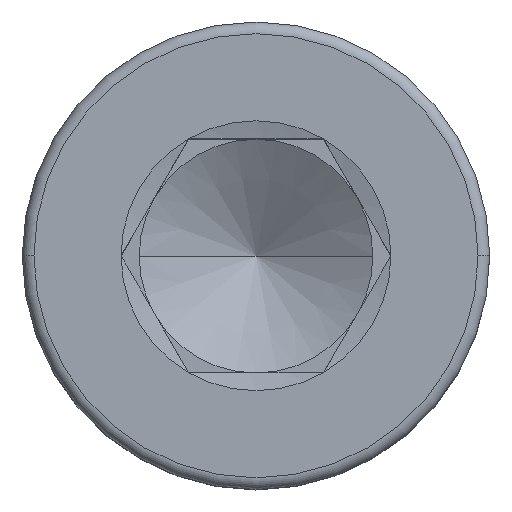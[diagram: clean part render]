
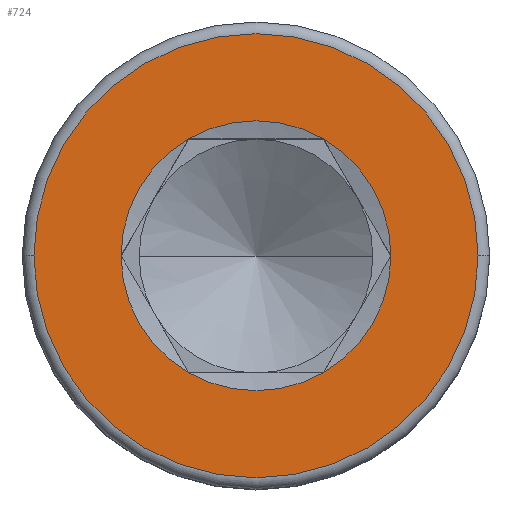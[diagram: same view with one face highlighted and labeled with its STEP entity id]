
A CAD part, top view. The second image highlights one B-rep face of the part: STEP entity #724.
In plain terms, the highlighted planar face has unit normal (0, 0, 1).
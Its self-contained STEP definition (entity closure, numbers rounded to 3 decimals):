
#5 = VERTEX_POINT ( 'NONE', #359 ) ;
#51 = CIRCLE ( 'NONE', #963, 2.309 ) ;
#58 = VERTEX_POINT ( 'NONE', #805 ) ;
#129 = CARTESIAN_POINT ( 'NONE',  ( 0., 0., 5. ) ) ;
#155 = DIRECTION ( 'NONE',  ( 0., 0., 1. ) ) ;
#173 = CARTESIAN_POINT ( 'NONE',  ( 1.155, -2., 5. ) ) ;
#178 = DIRECTION ( 'NONE',  ( 0., 0., 1. ) ) ;
#201 = AXIS2_PLACEMENT_3D ( 'NONE', #1491, #178, #1201 ) ;
#281 = FACE_BOUND ( 'NONE', #1468, .T. ) ;
#325 = CARTESIAN_POINT ( 'NONE',  ( 0., 0., 5. ) ) ;
#331 = DIRECTION ( 'NONE',  ( 1., 0., 0. ) ) ;
#356 = CIRCLE ( 'NONE', #597, 2.309 ) ;
#359 = CARTESIAN_POINT ( 'NONE',  ( 1.155, 2., 5. ) ) ;
#386 = EDGE_CURVE ( 'NONE', #1144, #727, #615, .T. ) ;
#397 = DIRECTION ( 'NONE',  ( 0., 0., 1. ) ) ;
#427 = DIRECTION ( 'NONE',  ( 1., 0., 0. ) ) ;
#438 = CIRCLE ( 'NONE', #201, 2.309 ) ;
#504 = AXIS2_PLACEMENT_3D ( 'NONE', #1708, #397, #981 ) ;
#595 = ORIENTED_EDGE ( 'NONE', *, *, #1609, .F. ) ;
#597 = AXIS2_PLACEMENT_3D ( 'NONE', #129, #1551, #1702 ) ;
#615 = CIRCLE ( 'NONE', #1627, 2.309 ) ;
#622 = CIRCLE ( 'NONE', #1485, 3.8 ) ;
#624 = CIRCLE ( 'NONE', #1696, 2.309 ) ;
#683 = AXIS2_PLACEMENT_3D ( 'NONE', #1030, #155, #427 ) ;
#724 = ADVANCED_FACE ( 'NONE', ( #730, #281 ), #1309, .T. ) ;
#727 = VERTEX_POINT ( 'NONE', #1004 ) ;
#730 = FACE_OUTER_BOUND ( 'NONE', #877, .T. ) ;
#766 = ORIENTED_EDGE ( 'NONE', *, *, #1195, .T. ) ;
#790 = ORIENTED_EDGE ( 'NONE', *, *, #386, .F. ) ;
#802 = CARTESIAN_POINT ( 'NONE',  ( -3.8, 0., 5. ) ) ;
#805 = CARTESIAN_POINT ( 'NONE',  ( -1.155, -2., 5. ) ) ;
#859 = EDGE_CURVE ( 'NONE', #1475, #1356, #1446, .T. ) ;
#864 = DIRECTION ( 'NONE',  ( 1., 0., 0. ) ) ;
#877 = EDGE_LOOP ( 'NONE', ( #1725, #766 ) ) ;
#957 = EDGE_CURVE ( 'NONE', #727, #5, #438, .T. ) ;
#963 = AXIS2_PLACEMENT_3D ( 'NONE', #1119, #999, #1012 ) ;
#981 = DIRECTION ( 'NONE',  ( 1., 0., 0. ) ) ;
#999 = DIRECTION ( 'NONE',  ( 0., 0., 1. ) ) ;
#1004 = CARTESIAN_POINT ( 'NONE',  ( 2.309, 0., 5. ) ) ;
#1012 = DIRECTION ( 'NONE',  ( 1., 0., 0. ) ) ;
#1030 = CARTESIAN_POINT ( 'NONE',  ( 0., 0., 5. ) ) ;
#1052 = DIRECTION ( 'NONE',  ( 1., 0., 0. ) ) ;
#1088 = EDGE_CURVE ( 'NONE', #1093, #58, #1571, .T. ) ;
#1093 = VERTEX_POINT ( 'NONE', #1562 ) ;
#1119 = CARTESIAN_POINT ( 'NONE',  ( 0., 0., 5. ) ) ;
#1138 = CARTESIAN_POINT ( 'NONE',  ( 3.8, 0., 5. ) ) ;
#1144 = VERTEX_POINT ( 'NONE', #173 ) ;
#1195 = EDGE_CURVE ( 'NONE', #1356, #1475, #622, .T. ) ;
#1201 = DIRECTION ( 'NONE',  ( 1., 0., 0. ) ) ;
#1246 = CARTESIAN_POINT ( 'NONE',  ( 0., 0., 5. ) ) ;
#1249 = DIRECTION ( 'NONE',  ( 0., 0., 1. ) ) ;
#1292 = CARTESIAN_POINT ( 'NONE',  ( 0., 0., 5. ) ) ;
#1309 = PLANE ( 'NONE',  #683 ) ;
#1312 = DIRECTION ( 'NONE',  ( 0., 0., 1. ) ) ;
#1356 = VERTEX_POINT ( 'NONE', #802 ) ;
#1403 = EDGE_CURVE ( 'NONE', #1795, #1093, #51, .T. ) ;
#1446 = CIRCLE ( 'NONE', #1785, 3.8 ) ;
#1468 = EDGE_LOOP ( 'NONE', ( #1589, #790, #595, #1833, #1854, #1624 ) ) ;
#1475 = VERTEX_POINT ( 'NONE', #1138 ) ;
#1485 = AXIS2_PLACEMENT_3D ( 'NONE', #1292, #1503, #1052 ) ;
#1491 = CARTESIAN_POINT ( 'NONE',  ( 0., 0., 5. ) ) ;
#1503 = DIRECTION ( 'NONE',  ( 0., 0., 1. ) ) ;
#1507 = DIRECTION ( 'NONE',  ( 0., 0., 1. ) ) ;
#1531 = DIRECTION ( 'NONE',  ( 1., 0., 0. ) ) ;
#1551 = DIRECTION ( 'NONE',  ( 0., 0., 1. ) ) ;
#1562 = CARTESIAN_POINT ( 'NONE',  ( -2.309, 0., 5. ) ) ;
#1571 = CIRCLE ( 'NONE', #504, 2.309 ) ;
#1589 = ORIENTED_EDGE ( 'NONE', *, *, #957, .F. ) ;
#1609 = EDGE_CURVE ( 'NONE', #58, #1144, #624, .T. ) ;
#1624 = ORIENTED_EDGE ( 'NONE', *, *, #1805, .F. ) ;
#1627 = AXIS2_PLACEMENT_3D ( 'NONE', #1799, #1249, #1531 ) ;
#1696 = AXIS2_PLACEMENT_3D ( 'NONE', #325, #1312, #864 ) ;
#1702 = DIRECTION ( 'NONE',  ( 1., 0., 0. ) ) ;
#1708 = CARTESIAN_POINT ( 'NONE',  ( 0., 0., 5. ) ) ;
#1725 = ORIENTED_EDGE ( 'NONE', *, *, #859, .T. ) ;
#1733 = CARTESIAN_POINT ( 'NONE',  ( -1.155, 2., 5. ) ) ;
#1785 = AXIS2_PLACEMENT_3D ( 'NONE', #1246, #1507, #331 ) ;
#1795 = VERTEX_POINT ( 'NONE', #1733 ) ;
#1799 = CARTESIAN_POINT ( 'NONE',  ( 0., 0., 5. ) ) ;
#1805 = EDGE_CURVE ( 'NONE', #5, #1795, #356, .T. ) ;
#1833 = ORIENTED_EDGE ( 'NONE', *, *, #1088, .F. ) ;
#1854 = ORIENTED_EDGE ( 'NONE', *, *, #1403, .F. ) ;
